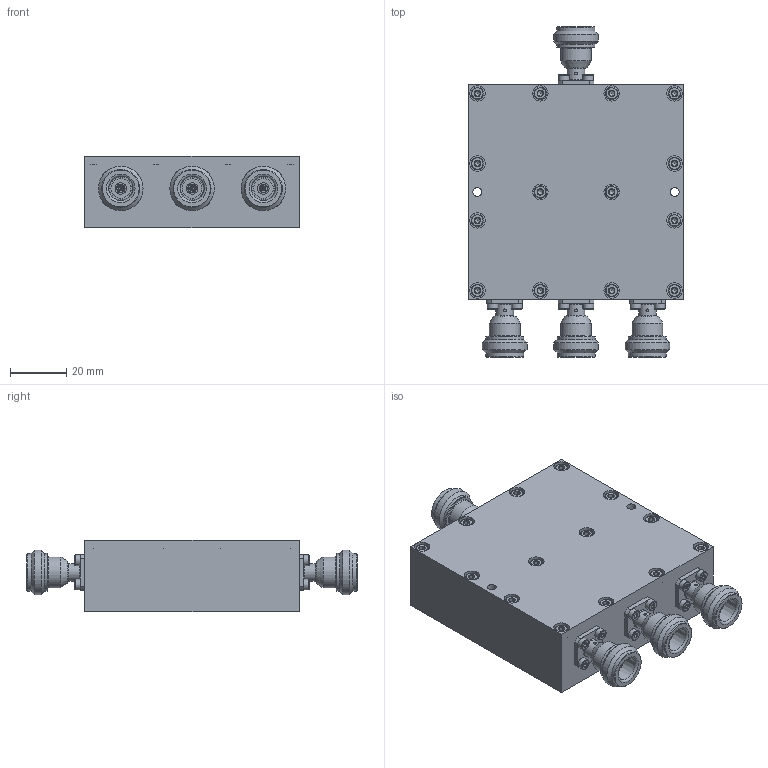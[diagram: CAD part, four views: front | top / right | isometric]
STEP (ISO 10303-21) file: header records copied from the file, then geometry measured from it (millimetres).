
FILE_DESCRIPTION(/* description */ ('Unknown'),/* implementation_level */ '2;1');
FILE_NAME(/* name */ 'DETI_MICROWAVE_NARROW_BAND_COMBINER_001678_STEP',/* time_stamp */ '2021-06-14T10:25:09+02:00',/* author */ ('ALG'),/* organization */ ('DETI'),/* preprocessor_version */ 'ST-DEVELOPER v16.7',/* originating_system */ 'Solid Edge',/* authorisation */ 'Unknown');
FILE_SCHEMA (('AUTOMOTIVE_DESIGN {1 0 10303 214 3 1 1}'));
Length unit declared in the file: millimetre
Products named in the file (1): 001 678 01 14 01 XX A2
Bounding box: 76.2 x 117.6 x 25.4 mm (x, y, z)
Volume: 125404.6 mm3; surface area: 40757.1 mm2
Topology: 1 solids, 38 shells, 1051 faces, 2489 edges, 1590 vertices
Faces by surface type: plane 476, cone 262, cylinder 221, torus 92
Full cylindrical faces by diameter (mm): 1 x8, 1.275 x4, 1.567 x16, 2 x16, 2.013 x14, 2.1 x4, 2.5 x14, 2.7 x14, 2.9 x16, 3.03 x4, 3.2 x3, 3.8 x16, 4.06 x4, 4.5 x14, 5.5 x14, 6.3 x4, 7 x4, 10.9 x4, 13.5 x8, 15.84 x4
Entity records: 33602 total; most frequent: CARTESIAN_POINT 5332, DIRECTION 4352, ORIENTED_EDGE 3624, AXIS2_PLACEMENT_3D 1862, EDGE_CURVE 1812, FACE_BOUND 1690, EDGE_LOOP 1626, VERTEX_POINT 1416
